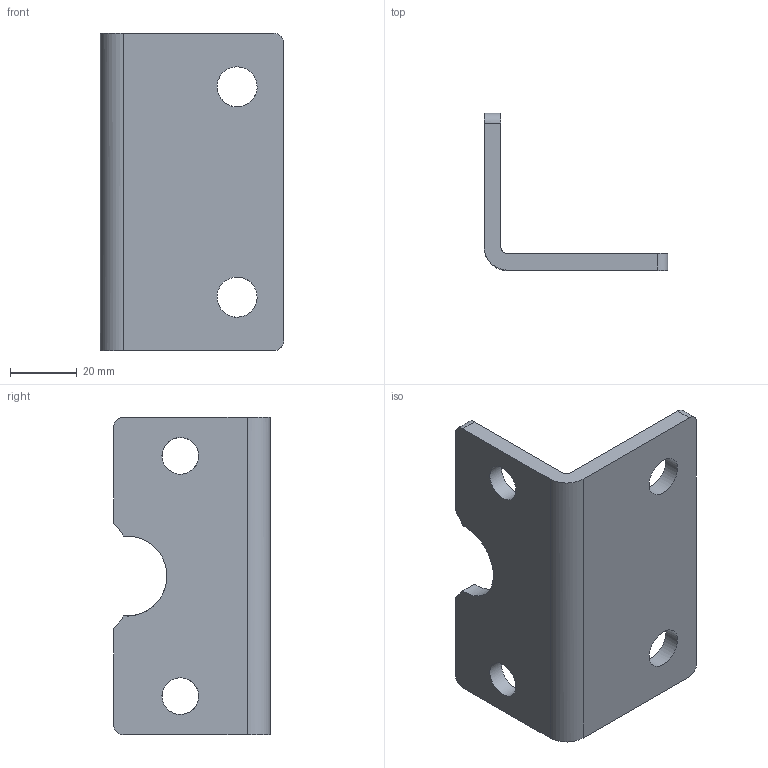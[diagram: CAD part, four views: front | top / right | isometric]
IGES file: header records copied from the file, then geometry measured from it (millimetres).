
Global section: file name: 1325_080_05-1F; native system: Autodesk Inventor 2014; preprocessor: unknown; organization: Pneumax S.p.A.; date: 20161014.140218; units: millimetre
Bounding box: 55 x 47 x 95 mm (x, y, z)
Volume: 41364.7 mm3; surface area: 19232.9 mm2
Topology: 1 solids, 1 shells, 22 faces, 64 edges, 44 vertices
Faces by surface type: bspline 22
